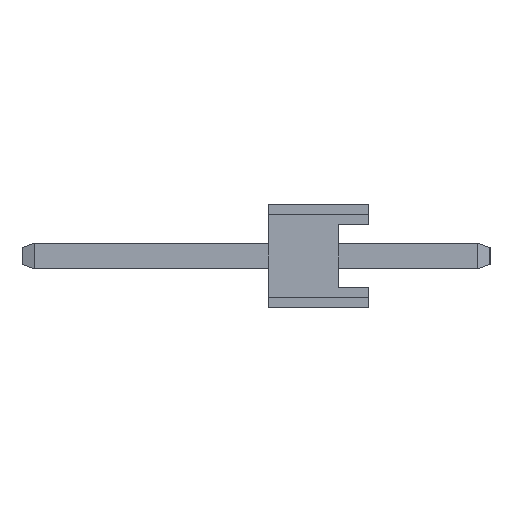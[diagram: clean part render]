
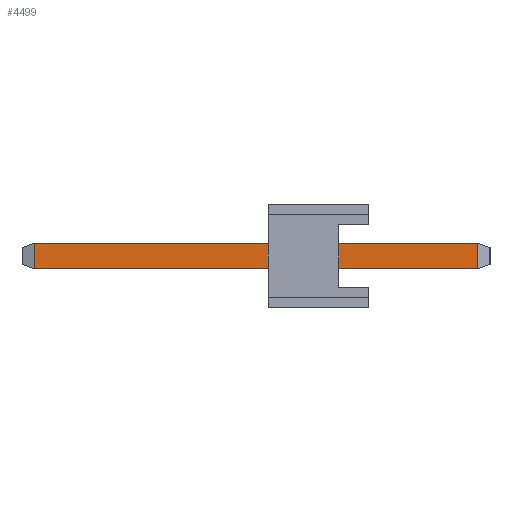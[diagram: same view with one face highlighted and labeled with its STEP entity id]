
A CAD part, left-side view. The second image highlights one B-rep face of the part: STEP entity #4499.
In plain terms, the highlighted planar face has unit normal (-1, 0, 0).
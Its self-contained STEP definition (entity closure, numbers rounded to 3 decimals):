
#65 = CARTESIAN_POINT ( 'NONE',  ( -11.75, 8.3, 0.32 ) ) ;
#346 = VERTEX_POINT ( 'NONE', #1586 ) ;
#433 = CARTESIAN_POINT ( 'NONE',  ( -11.75, -6.905, -0.32 ) ) ;
#522 = DIRECTION ( 'NONE',  ( 0., 0., -1. ) ) ;
#844 = VECTOR ( 'NONE', #522, 1000. ) ;
#872 = VECTOR ( 'NONE', #4866, 1000. ) ;
#1074 = FACE_OUTER_BOUND ( 'NONE', #6023, .T. ) ;
#1150 = CARTESIAN_POINT ( 'NONE',  ( -11.75, -2.7, -0.32 ) ) ;
#1282 = LINE ( 'NONE', #2676, #5477 ) ;
#1586 = CARTESIAN_POINT ( 'NONE',  ( -11.75, 8.3, -0.32 ) ) ;
#1989 = LINE ( 'NONE', #5759, #6018 ) ;
#2556 = ORIENTED_EDGE ( 'NONE', *, *, #7244, .T. ) ;
#2660 = DIRECTION ( 'NONE',  ( -1., 0., 0. ) ) ;
#2676 = CARTESIAN_POINT ( 'NONE',  ( -11.75, -6.905, 0.32 ) ) ;
#3542 = ORIENTED_EDGE ( 'NONE', *, *, #6700, .T. ) ;
#3644 = EDGE_CURVE ( 'NONE', #4828, #346, #7132, .T. ) ;
#3942 = VERTEX_POINT ( 'NONE', #7477 ) ;
#3945 = AXIS2_PLACEMENT_3D ( 'NONE', #6524, #2660, #4218 ) ;
#4218 = DIRECTION ( 'NONE',  ( 0., 0., 1. ) ) ;
#4305 = LINE ( 'NONE', #7319, #844 ) ;
#4499 = ADVANCED_FACE ( 'NONE', ( #1074 ), #7176, .T. ) ;
#4828 = VERTEX_POINT ( 'NONE', #1150 ) ;
#4866 = DIRECTION ( 'NONE',  ( 0., 1., 0. ) ) ;
#5477 = VECTOR ( 'NONE', #6603, 1000. ) ;
#5759 = CARTESIAN_POINT ( 'NONE',  ( -11.75, -2.7, 0.32 ) ) ;
#6018 = VECTOR ( 'NONE', #8083, 1000. ) ;
#6023 = EDGE_LOOP ( 'NONE', ( #6596, #2556, #9623, #3542 ) ) ;
#6524 = CARTESIAN_POINT ( 'NONE',  ( -11.75, -6.905, -0.32 ) ) ;
#6596 = ORIENTED_EDGE ( 'NONE', *, *, #9753, .T. ) ;
#6603 = DIRECTION ( 'NONE',  ( 0., 1., 0. ) ) ;
#6700 = EDGE_CURVE ( 'NONE', #4828, #3942, #1989, .T. ) ;
#7132 = LINE ( 'NONE', #433, #872 ) ;
#7176 = PLANE ( 'NONE',  #3945 ) ;
#7244 = EDGE_CURVE ( 'NONE', #8868, #346, #4305, .T. ) ;
#7319 = CARTESIAN_POINT ( 'NONE',  ( -11.75, 8.3, -0.32 ) ) ;
#7477 = CARTESIAN_POINT ( 'NONE',  ( -11.75, -2.7, 0.32 ) ) ;
#8083 = DIRECTION ( 'NONE',  ( 0., 0., 1. ) ) ;
#8868 = VERTEX_POINT ( 'NONE', #65 ) ;
#9623 = ORIENTED_EDGE ( 'NONE', *, *, #3644, .F. ) ;
#9753 = EDGE_CURVE ( 'NONE', #3942, #8868, #1282, .T. ) ;
